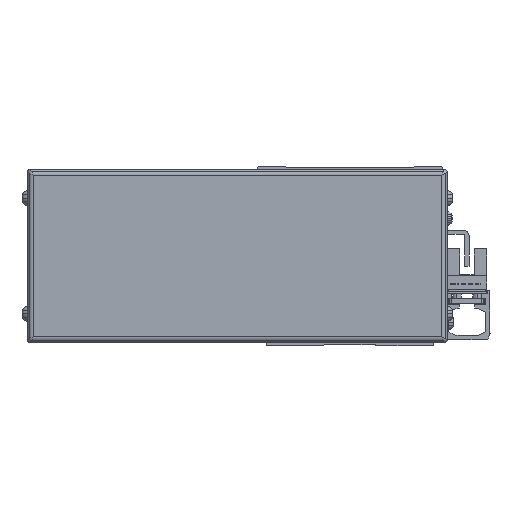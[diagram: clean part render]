
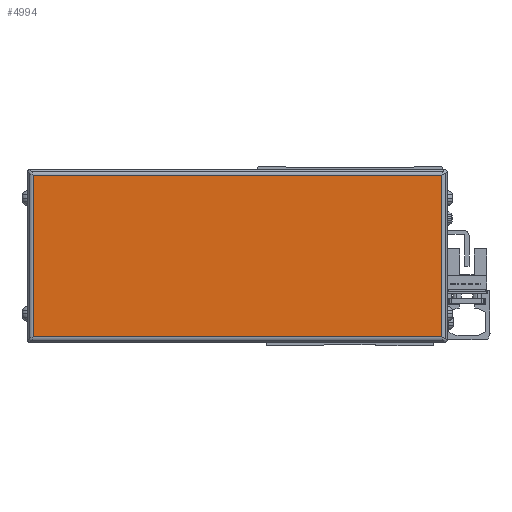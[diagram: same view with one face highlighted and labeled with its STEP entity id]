
A CAD part, front view. The second image highlights one B-rep face of the part: STEP entity #4994.
In plain terms, the highlighted planar face has unit normal (0, -1, 0).
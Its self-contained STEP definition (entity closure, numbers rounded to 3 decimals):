
#4994=ADVANCED_FACE('',(#11018),#11019,.F.);
#11018=FACE_OUTER_BOUND('',#19041,.T.);
#11019=PLANE('',#19042);
#19041=EDGE_LOOP('',(#32619,#32620,#32621,#32622));
#19042=AXIS2_PLACEMENT_3D('',#32623,#32624,#32625);
#32619=ORIENTED_EDGE('',*,*,#49421,.T.);
#32620=ORIENTED_EDGE('',*,*,#49422,.T.);
#32621=ORIENTED_EDGE('',*,*,#46707,.T.);
#32622=ORIENTED_EDGE('',*,*,#47255,.T.);
#32623=CARTESIAN_POINT('',(261.,-94.,-4.));
#32624=DIRECTION('',(0.,1.0,0.));
#32625=DIRECTION('',(0.,0.,1.0));
#46707=EDGE_CURVE('',#56625,#56623,#56626,.T.);
#47255=EDGE_CURVE('',#56623,#57538,#57540,.T.);
#49421=EDGE_CURVE('',#57538,#60216,#60785,.T.);
#49422=EDGE_CURVE('',#60216,#56625,#60786,.T.);
#56623=VERTEX_POINT('',#70324);
#56625=VERTEX_POINT('',#70326);
#56626=LINE('',#70327,#70328);
#57538=VERTEX_POINT('',#71544);
#57540=LINE('',#71546,#71547);
#60216=VERTEX_POINT('',#75493);
#60785=LINE('',#76279,#76280);
#60786=LINE('',#76281,#76282);
#70324=CARTESIAN_POINT('',(331.7,-94.,-32.));
#70326=CARTESIAN_POINT('',(190.3,-94.,-32.));
#70327=CARTESIAN_POINT('',(261.,-94.,-32.));
#70328=VECTOR('',#84755,10.0);
#71544=CARTESIAN_POINT('',(331.7,-94.,24.));
#71546=CARTESIAN_POINT('',(331.7,-94.,-4.));
#71547=VECTOR('',#85497,10.0);
#75493=CARTESIAN_POINT('',(190.3,-94.,24.));
#76279=CARTESIAN_POINT('',(261.,-94.,24.));
#76280=VECTOR('',#88163,10.0);
#76281=CARTESIAN_POINT('',(190.3,-94.,-4.));
#76282=VECTOR('',#88164,10.0);
#84755=DIRECTION('',(1.0,0.,0.));
#85497=DIRECTION('',(0.,0.,1.0));
#88163=DIRECTION('',(-1.0,0.,0.));
#88164=DIRECTION('',(0.,0.,-1.0));
